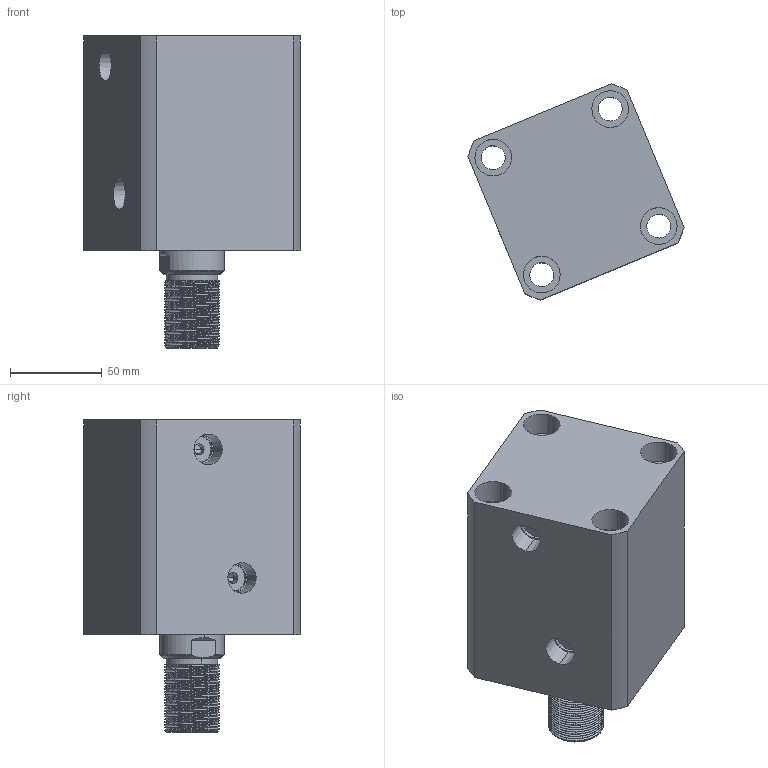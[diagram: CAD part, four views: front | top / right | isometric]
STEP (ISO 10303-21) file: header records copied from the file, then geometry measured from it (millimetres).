
FILE_DESCRIPTION (( 'STEP AP214' ), '1' );
FILE_NAME ('chtb-sd63x50w_asm.STEP', '2018-05-19T01:59:35', ( 'Windows' ), ( 'Microsoft' ), 'SwSTEP 2.0', 'SolidWorks 2015', '' );
FILE_SCHEMA (( 'AUTOMOTIVE_DESIGN' ));
Length unit declared in the file: millimetre
Products named in the file (4): CHTB63X50WHSG; CHTB63X50NBT; CHTB-63QG; chtb-sd63x50w_asm
Assembly tree (3 placements, depth 2):
  chtb-sd63x50w_asm
    CHTB-63QG
    CHTB63X50NBT
    CHTB63X50WHSG
Bounding box: 117.81 x 117.81 x 170 mm (x, y, z)
Volume: 869879.1 mm3; surface area: 149513.5 mm2
Topology: 3 solids, 3 shells, 219 faces, 625 edges, 427 vertices
Faces by surface type: cylinder 150, plane 36, bspline 14, cone 13, torus 6
Entity records: 22208 total; most frequent: CARTESIAN_POINT 16953, ORIENTED_EDGE 1242, DIRECTION 881, EDGE_CURVE 621, VERTEX_POINT 427, AXIS2_PLACEMENT_3D 346, EDGE_LOOP 252, FACE_OUTER_BOUND 219
